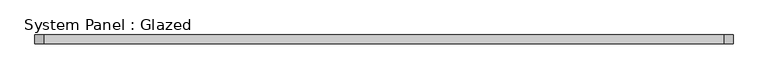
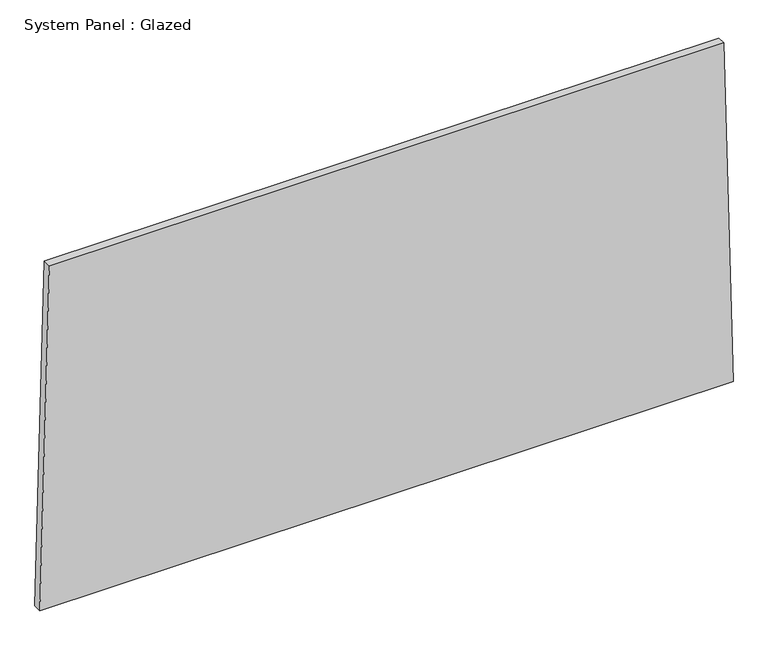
"""IFC4 building model written with IfcOpenShell, lengths in millimetres: plate geometry, System Panel : Glazed."""

from ifc_helpers import new_model, si_unit, frame, origin, place, context, project, spatial, polyline, outline, extrude, source, transform, mapped, element, save


def system_panel_glazed_25115a52(model_context):
    return source(origin(), model_context, "Body", "SweptSolid", [
        extrude(outline(polyline([(0.0, -1022.9539556), (0.0, 1022.9539556), (1066.4364867, 995.1068757), (1066.4364867, -995.1068757), (0.0, -1022.9539556)])), frame((0.0, -44.45, 0.0), z_axis=(0.0, 1.0, 0.0), x_axis=(0.0, 0.0, 1.0)), (0.0, 0.0, 1.0), 25.4),
    ])


if __name__ == "__main__":
    model = new_model("IFC4")
    model_context = context("Model", 3, world=origin())
    ifc_project = project(units=[si_unit("LENGTHUNIT", "METRE", prefix="MILLI")], contexts=[model_context])
    site = spatial("IfcSite", under=ifc_project)
    building = spatial("IfcBuilding", under=site)
    placement = place(None, origin())
    system_panel_glazed_shape = system_panel_glazed_25115a52(model_context)
    element("IfcPlate", 1, ObjectType="System Panel : Glazed", at=placement, inside=building, context=model_context, shape_type="MappedRepresentation", body=[
        mapped(system_panel_glazed_shape, transform((0.0, 0.0, 0.0), x_axis=(1.0, 0.0, 0.0), y_axis=(0.0, 1.0, 0.0), z_axis=(0.0, 0.0, 1.0))),
    ])
    save(model, "model.ifc")
